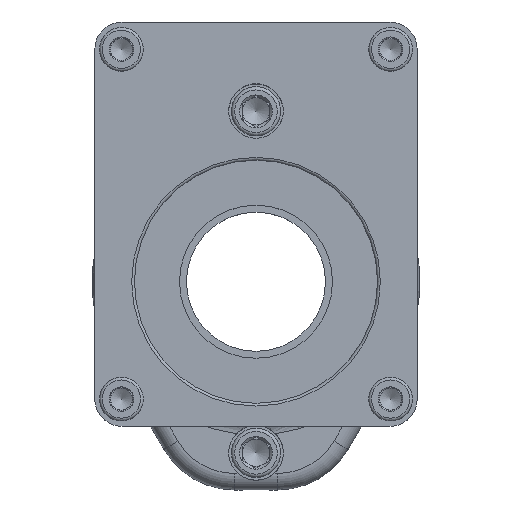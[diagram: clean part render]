
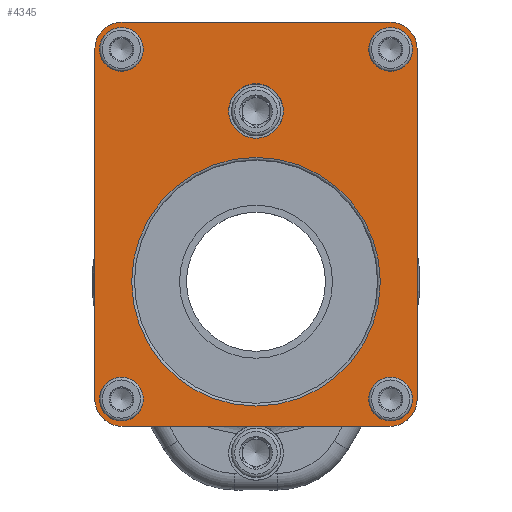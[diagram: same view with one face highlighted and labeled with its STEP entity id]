
A CAD part, top view. The second image highlights one B-rep face of the part: STEP entity #4345.
In plain terms, the highlighted planar face has unit normal (0, 0, 1).
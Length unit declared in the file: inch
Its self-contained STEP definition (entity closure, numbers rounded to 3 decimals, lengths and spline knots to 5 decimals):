
#67=FACE_BOUND('',#761,.T.);
#68=FACE_BOUND('',#762,.T.);
#69=FACE_BOUND('',#763,.T.);
#70=FACE_BOUND('',#764,.T.);
#71=FACE_BOUND('',#765,.T.);
#72=FACE_BOUND('',#766,.T.);
#250=PLANE('',#4775);
#494=FACE_OUTER_BOUND('',#760,.T.);
#760=EDGE_LOOP('',(#3551,#3552,#3553,#3554,#3555,#3556,#3557,#3558));
#761=EDGE_LOOP('',(#3559));
#762=EDGE_LOOP('',(#3560));
#763=EDGE_LOOP('',(#3561));
#764=EDGE_LOOP('',(#3562));
#765=EDGE_LOOP('',(#3563));
#766=EDGE_LOOP('',(#3564));
#1058=LINE('',#7387,#1325);
#1059=LINE('',#7391,#1326);
#1060=LINE('',#7395,#1327);
#1061=LINE('',#7399,#1328);
#1325=VECTOR('',#5809,0.3937);
#1326=VECTOR('',#5812,0.3937);
#1327=VECTOR('',#5815,0.3937);
#1328=VECTOR('',#5818,0.3937);
#1572=CIRCLE('',#4773,1.79134);
#1574=CIRCLE('',#4776,0.3937);
#1575=CIRCLE('',#4777,0.3937);
#1576=CIRCLE('',#4778,0.3937);
#1577=CIRCLE('',#4779,0.3937);
#1578=CIRCLE('',#4780,0.20425);
#1579=CIRCLE('',#4781,0.20425);
#1580=CIRCLE('',#4782,0.3937);
#1581=CIRCLE('',#4783,0.20425);
#1582=CIRCLE('',#4784,0.20425);
#1965=VERTEX_POINT('',#7381);
#1966=VERTEX_POINT('',#7385);
#1967=VERTEX_POINT('',#7386);
#1968=VERTEX_POINT('',#7388);
#1969=VERTEX_POINT('',#7390);
#1970=VERTEX_POINT('',#7392);
#1971=VERTEX_POINT('',#7394);
#1972=VERTEX_POINT('',#7396);
#1973=VERTEX_POINT('',#7398);
#1974=VERTEX_POINT('',#7401);
#1975=VERTEX_POINT('',#7403);
#1976=VERTEX_POINT('',#7405);
#1977=VERTEX_POINT('',#7407);
#1978=VERTEX_POINT('',#7409);
#2510=EDGE_CURVE('',#1965,#1965,#1572,.T.);
#2512=EDGE_CURVE('',#1966,#1967,#1058,.T.);
#2513=EDGE_CURVE('',#1967,#1968,#1574,.T.);
#2514=EDGE_CURVE('',#1968,#1969,#1059,.T.);
#2515=EDGE_CURVE('',#1969,#1970,#1575,.T.);
#2516=EDGE_CURVE('',#1970,#1971,#1060,.T.);
#2517=EDGE_CURVE('',#1971,#1972,#1576,.T.);
#2518=EDGE_CURVE('',#1972,#1973,#1061,.T.);
#2519=EDGE_CURVE('',#1973,#1966,#1577,.T.);
#2520=EDGE_CURVE('',#1974,#1974,#1578,.T.);
#2521=EDGE_CURVE('',#1975,#1975,#1579,.T.);
#2522=EDGE_CURVE('',#1976,#1976,#1580,.T.);
#2523=EDGE_CURVE('',#1977,#1977,#1581,.T.);
#2524=EDGE_CURVE('',#1978,#1978,#1582,.T.);
#3551=ORIENTED_EDGE('',*,*,#2512,.T.);
#3552=ORIENTED_EDGE('',*,*,#2513,.T.);
#3553=ORIENTED_EDGE('',*,*,#2514,.T.);
#3554=ORIENTED_EDGE('',*,*,#2515,.T.);
#3555=ORIENTED_EDGE('',*,*,#2516,.T.);
#3556=ORIENTED_EDGE('',*,*,#2517,.T.);
#3557=ORIENTED_EDGE('',*,*,#2518,.T.);
#3558=ORIENTED_EDGE('',*,*,#2519,.T.);
#3559=ORIENTED_EDGE('',*,*,#2520,.F.);
#3560=ORIENTED_EDGE('',*,*,#2521,.F.);
#3561=ORIENTED_EDGE('',*,*,#2522,.T.);
#3562=ORIENTED_EDGE('',*,*,#2523,.F.);
#3563=ORIENTED_EDGE('',*,*,#2524,.F.);
#3564=ORIENTED_EDGE('',*,*,#2510,.F.);
#4345=ADVANCED_FACE('',(#494,#67,#68,#69,#70,#71,#72),#250,.F.);
#4773=AXIS2_PLACEMENT_3D('',#7382,#5803,#5804);
#4775=AXIS2_PLACEMENT_3D('',#7384,#5807,#5808);
#4776=AXIS2_PLACEMENT_3D('',#7389,#5810,#5811);
#4777=AXIS2_PLACEMENT_3D('',#7393,#5813,#5814);
#4778=AXIS2_PLACEMENT_3D('',#7397,#5816,#5817);
#4779=AXIS2_PLACEMENT_3D('',#7400,#5819,#5820);
#4780=AXIS2_PLACEMENT_3D('',#7402,#5821,#5822);
#4781=AXIS2_PLACEMENT_3D('',#7404,#5823,#5824);
#4782=AXIS2_PLACEMENT_3D('',#7406,#5825,#5826);
#4783=AXIS2_PLACEMENT_3D('',#7408,#5827,#5828);
#4784=AXIS2_PLACEMENT_3D('',#7410,#5829,#5830);
#5803=DIRECTION('center_axis',(0.,0.,1.));
#5804=DIRECTION('ref_axis',(-1.,0.,0.));
#5807=DIRECTION('center_axis',(0.,0.,-1.));
#5808=DIRECTION('ref_axis',(-1.,0.,0.));
#5809=DIRECTION('',(1.,0.,0.));
#5810=DIRECTION('center_axis',(0.,0.,1.));
#5811=DIRECTION('ref_axis',(0.,-1.,0.));
#5812=DIRECTION('',(0.,1.,0.));
#5813=DIRECTION('center_axis',(0.,0.,1.));
#5814=DIRECTION('ref_axis',(1.,0.,0.));
#5815=DIRECTION('',(-1.,0.,0.));
#5816=DIRECTION('center_axis',(0.,0.,1.));
#5817=DIRECTION('ref_axis',(0.,1.,0.));
#5818=DIRECTION('',(0.,-1.,0.));
#5819=DIRECTION('center_axis',(0.,0.,1.));
#5820=DIRECTION('ref_axis',(-1.,0.,0.));
#5821=DIRECTION('center_axis',(0.,0.,1.));
#5822=DIRECTION('ref_axis',(-1.,0.,0.));
#5823=DIRECTION('center_axis',(0.,0.,1.));
#5824=DIRECTION('ref_axis',(-1.,0.,0.));
#5825=DIRECTION('center_axis',(0.,0.,-1.));
#5826=DIRECTION('ref_axis',(-1.,0.,0.));
#5827=DIRECTION('center_axis',(0.,0.,1.));
#5828=DIRECTION('ref_axis',(-1.,0.,0.));
#5829=DIRECTION('center_axis',(0.,0.,1.));
#5830=DIRECTION('ref_axis',(-1.,0.,0.));
#7381=CARTESIAN_POINT('',(1.79134,0.,3.58268));
#7382=CARTESIAN_POINT('Origin',(0.,0.,3.58268));
#7384=CARTESIAN_POINT('Origin',(0.,0.,3.58268));
#7385=CARTESIAN_POINT('',(-1.92943,-2.08389,3.58268));
#7386=CARTESIAN_POINT('',(1.92884,-2.08389,3.58268));
#7387=CARTESIAN_POINT('',(-1.92943,-2.08389,3.58268));
#7388=CARTESIAN_POINT('',(2.32254,-1.69021,3.58268));
#7389=CARTESIAN_POINT('Origin',(1.92884,-1.69019,3.58268));
#7390=CARTESIAN_POINT('',(2.32281,3.34916,3.58268));
#7391=CARTESIAN_POINT('',(2.32254,-1.69021,3.58268));
#7392=CARTESIAN_POINT('',(1.92911,3.74288,3.58268));
#7393=CARTESIAN_POINT('Origin',(1.92911,3.34918,3.58268));
#7394=CARTESIAN_POINT('',(-1.92916,3.74288,3.58268));
#7395=CARTESIAN_POINT('',(1.92911,3.74288,3.58268));
#7396=CARTESIAN_POINT('',(-2.32286,3.3492,3.58268));
#7397=CARTESIAN_POINT('Origin',(-1.92916,3.34918,3.58268));
#7398=CARTESIAN_POINT('',(-2.32313,-1.69017,3.58268));
#7399=CARTESIAN_POINT('',(-2.32286,3.3492,3.58268));
#7400=CARTESIAN_POINT('Origin',(-1.92943,-1.69019,3.58268));
#7401=CARTESIAN_POINT('',(-1.73472,3.34646,3.58268));
#7402=CARTESIAN_POINT('Origin',(-1.93898,3.34646,3.58268));
#7403=CARTESIAN_POINT('',(-1.73472,-1.69291,3.58268));
#7404=CARTESIAN_POINT('Origin',(-1.93898,-1.69291,3.58268));
#7405=CARTESIAN_POINT('',(0.3937,2.46063,3.58268));
#7406=CARTESIAN_POINT('Origin',(0.,2.46063,3.58268));
#7407=CARTESIAN_POINT('',(2.14323,-1.69291,3.58268));
#7408=CARTESIAN_POINT('Origin',(1.93898,-1.69291,3.58268));
#7409=CARTESIAN_POINT('',(2.14323,3.34646,3.58268));
#7410=CARTESIAN_POINT('Origin',(1.93898,3.34646,3.58268));
